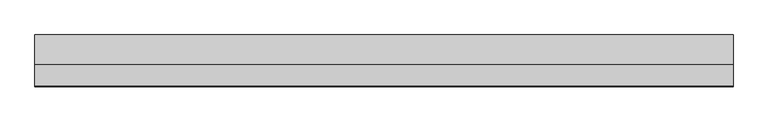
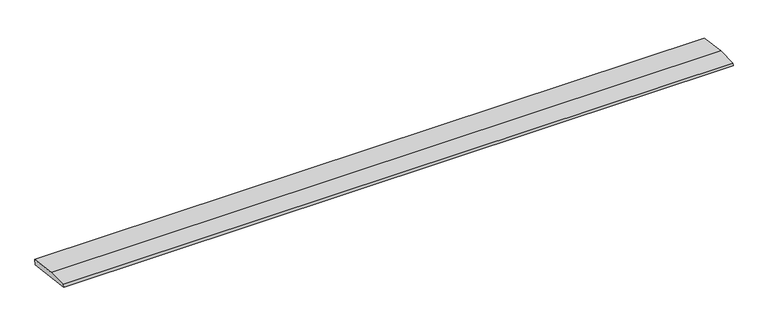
"""IFC4 building model written with IfcOpenShell, lengths in millimetres: beam geometry, weatherboad : weatherboad."""

from ifc_helpers import new_model, si_unit, frame, origin, place, context, project, spatial, polyline, outline, extrude, source, transform, mapped, element, save


def beam_d161b6fd(model_context):
    return source(origin(), model_context, "Body", "SweptSolid", [
        extrude(outline(polyline([(0.0, -9.143159), (1.1226388, 0.0), (79.0749747, 0.0), (180.9387048, -12.5072934), (178.6231873, -31.3656703), (0.0, -9.143159)])), frame((-1217.0944172, 0.0, 0.0), z_axis=(1.0, 0.0, 0.0), x_axis=(0.0, 1.0, 0.0)), (0.0, 0.0, 1.0), 2434.1888343),
    ])


if __name__ == "__main__":
    model = new_model("IFC4")
    model_context = context("Model", 3, world=origin())
    ifc_project = project(units=[si_unit("LENGTHUNIT", "METRE", prefix="MILLI")], contexts=[model_context])
    site = spatial("IfcSite", under=ifc_project)
    building = spatial("IfcBuilding", under=site)
    placement = place(None, origin())
    beam_shape = beam_d161b6fd(model_context)
    element("IfcBeam", 1, ObjectType="weatherboad : weatherboad", at=placement, inside=building, context=model_context, shape_type="MappedRepresentation", body=[
        mapped(beam_shape, transform((0.0, 0.0, 0.0), x_axis=(1.0, 0.0, 0.0), y_axis=(0.0, 1.0, 0.0), z_axis=(0.0, 0.0, 1.0))),
    ])
    save(model, "model.ifc")
